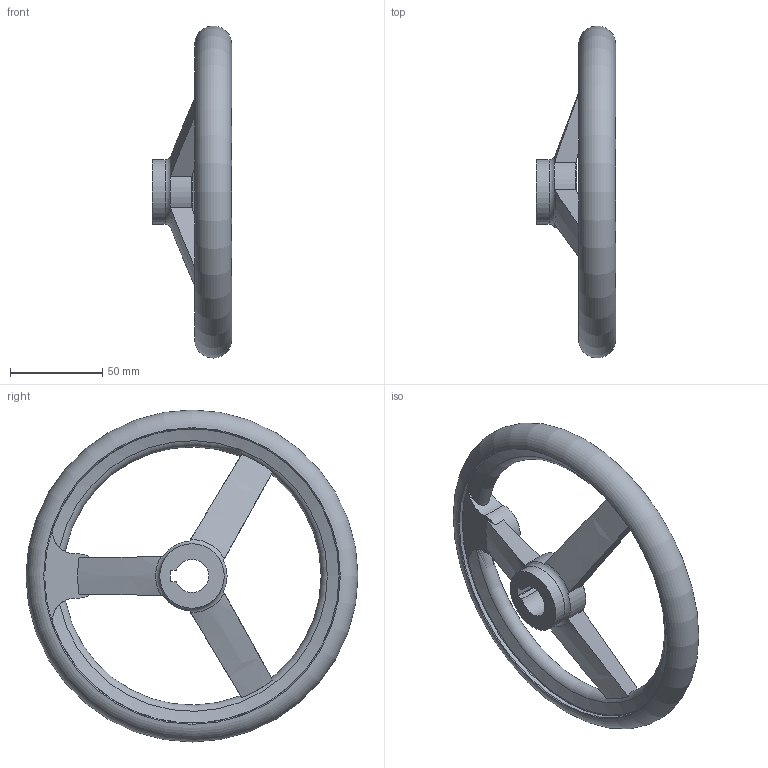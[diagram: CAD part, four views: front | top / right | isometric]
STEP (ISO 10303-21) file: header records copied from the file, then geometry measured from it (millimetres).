
FILE_DESCRIPTION( ( 'STEP AP203' ), '1' );
FILE_NAME( 'C:/Temp/Ganter_Step_05_03_2020/data/1_3/din_950/din_950_k/din_950_k_a/Handwheel DIN 950-AL-180-K18-A.stp', '2020-03-05T10:30:36', ( 'License CC BY-ND 4.0' ), ( 'CADENAS' ), ' ', 'PARTsolutions', ' ' );
FILE_SCHEMA( ( 'CONFIG_CONTROL_DESIGN' ) );
Length unit declared in the file: millimetre
Products named in the file (1): _Handwheel DIN 950-AL-180-K18-A
Bounding box: 43 x 179.99 x 179.99 mm (x, y, z)
Volume: 183798.2 mm3; surface area: 46830.7 mm2
Topology: 1 solids, 1 shells, 44 faces, 129 edges, 83 vertices
Faces by surface type: cylinder 13, plane 13, torus 12, cone 6
Full cylindrical faces by diameter (mm): 35 x2, 160 x2
Entity records: 1768 total; most frequent: CARTESIAN_POINT 651, ORIENTED_EDGE 226, DIRECTION 210, EDGE_CURVE 113, AXIS2_PLACEMENT_3D 93, VERTEX_POINT 80, EDGE_LOOP 60, FACE_OUTER_BOUND 55
